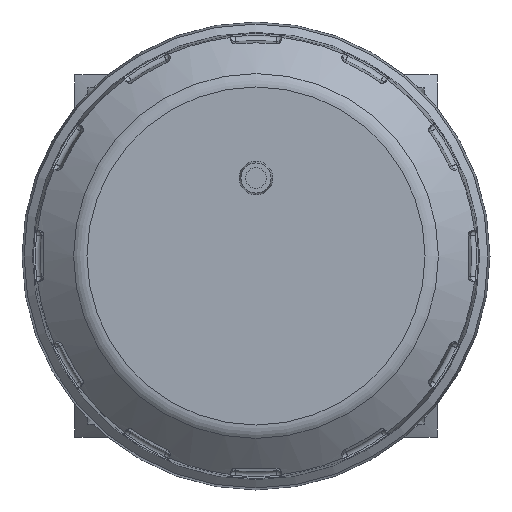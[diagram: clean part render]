
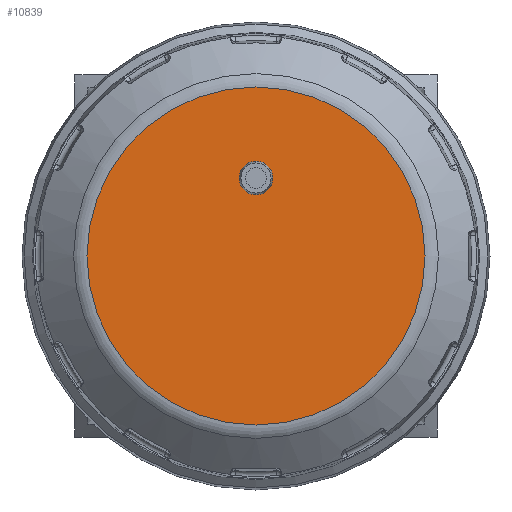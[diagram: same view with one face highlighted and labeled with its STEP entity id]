
A CAD part, front view. The second image highlights one B-rep face of the part: STEP entity #10839.
In plain terms, the highlighted planar face has unit normal (0, -1, 0).
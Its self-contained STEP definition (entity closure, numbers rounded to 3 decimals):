
#10808=CARTESIAN_POINT('',(0.,-36.1,32.502));
#10809=VERTEX_POINT('',#10808);
#10810=CARTESIAN_POINT('',(0.,-36.1,0.));
#10811=DIRECTION('',(0.0,1.0,0.0));
#10812=DIRECTION('',(0.0,0.0,1.0));
#10813=AXIS2_PLACEMENT_3D('',#10810,#10811,#10812);
#10814=CIRCLE('',#10813,32.502);
#10815=EDGE_CURVE('',#10809,#10809,#10814,.T.);
#10820=CARTESIAN_POINT('',(0.,-36.1,16.251));
#10821=DIRECTION('',(0.0,-1.0,0.0));
#10822=DIRECTION('',(0.0,0.0,-1.0));
#10823=AXIS2_PLACEMENT_3D('',#10820,#10821,#10822);
#10824=PLANE('',#10823);
#10825=ORIENTED_EDGE('',*,*,#10815,.F.);
#10826=EDGE_LOOP('',(#10825));
#10827=FACE_OUTER_BOUND('',#10826,.T.);
#10828=CARTESIAN_POINT('',(0.,-36.1,11.75));
#10829=VERTEX_POINT('',#10828);
#10830=CARTESIAN_POINT('',(0.,-36.1,15.));
#10831=DIRECTION('',(0.0,1.0,0.0));
#10832=DIRECTION('',(0.0,0.0,1.0));
#10833=AXIS2_PLACEMENT_3D('',#10830,#10831,#10832);
#10834=CIRCLE('',#10833,3.25);
#10835=EDGE_CURVE('',#10829,#10829,#10834,.T.);
#10836=ORIENTED_EDGE('',*,*,#10835,.T.);
#10837=EDGE_LOOP('',(#10836));
#10838=FACE_BOUND('',#10837,.T.);
#10839=ADVANCED_FACE('',(#10827,#10838),#10824,.T.);
